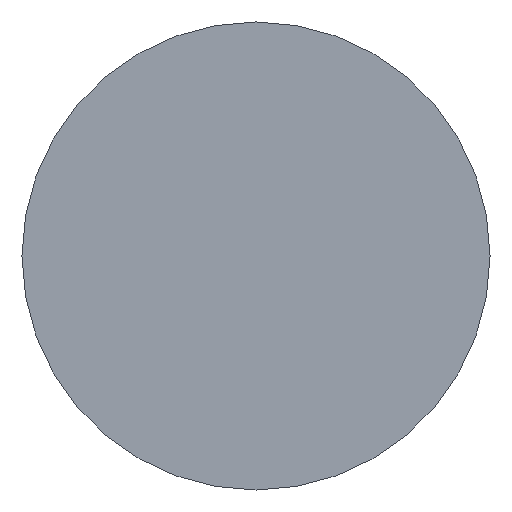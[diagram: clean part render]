
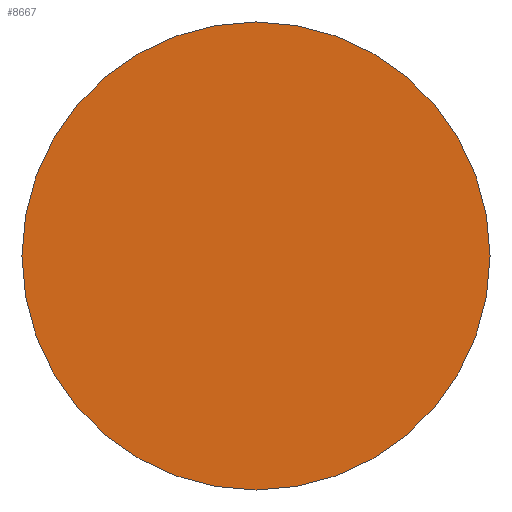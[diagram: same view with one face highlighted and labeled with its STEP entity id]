
A CAD part, front view. The second image highlights one B-rep face of the part: STEP entity #8667.
In plain terms, the highlighted planar face has unit normal (0, -1, 0).
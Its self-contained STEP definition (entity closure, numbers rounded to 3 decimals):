
#476 = DIRECTION ( 'NONE',  ( 0., 1., 0. ) ) ;
#619 = CARTESIAN_POINT ( 'NONE',  ( 0., 0., 0. ) ) ;
#638 = CIRCLE ( 'NONE', #2995, 50. ) ;
#817 = VERTEX_POINT ( 'NONE', #1871 ) ;
#1779 = CARTESIAN_POINT ( 'NONE',  ( 0., 0., 0. ) ) ;
#1871 = CARTESIAN_POINT ( 'NONE',  ( -50., 0., 0. ) ) ;
#2101 = DIRECTION ( 'NONE',  ( -1., 0., 0. ) ) ;
#2798 = CIRCLE ( 'NONE', #6982, 50. ) ;
#2819 = EDGE_CURVE ( 'NONE', #11002, #817, #638, .T. ) ;
#2995 = AXIS2_PLACEMENT_3D ( 'NONE', #4729, #3407, #2101 ) ;
#3407 = DIRECTION ( 'NONE',  ( 0., 1., 0. ) ) ;
#4729 = CARTESIAN_POINT ( 'NONE',  ( 0., 0., 0. ) ) ;
#6982 = AXIS2_PLACEMENT_3D ( 'NONE', #1779, #476, #11941 ) ;
#7137 = PLANE ( 'NONE',  #10379 ) ;
#8667 = ADVANCED_FACE ( 'NONE', ( #10711 ), #7137, .F. ) ;
#9184 = EDGE_LOOP ( 'NONE', ( #11684, #11118 ) ) ;
#10379 = AXIS2_PLACEMENT_3D ( 'NONE', #619, #12071, #10773 ) ;
#10711 = FACE_OUTER_BOUND ( 'NONE', #9184, .T. ) ;
#10728 = CARTESIAN_POINT ( 'NONE',  ( 50., 0., 0. ) ) ;
#10773 = DIRECTION ( 'NONE',  ( -1., 0., 0. ) ) ;
#11002 = VERTEX_POINT ( 'NONE', #10728 ) ;
#11118 = ORIENTED_EDGE ( 'NONE', *, *, #2819, .F. ) ;
#11414 = EDGE_CURVE ( 'NONE', #817, #11002, #2798, .T. ) ;
#11684 = ORIENTED_EDGE ( 'NONE', *, *, #11414, .F. ) ;
#11941 = DIRECTION ( 'NONE',  ( -1., 0., 0. ) ) ;
#12071 = DIRECTION ( 'NONE',  ( 0., 1., 0. ) ) ;
